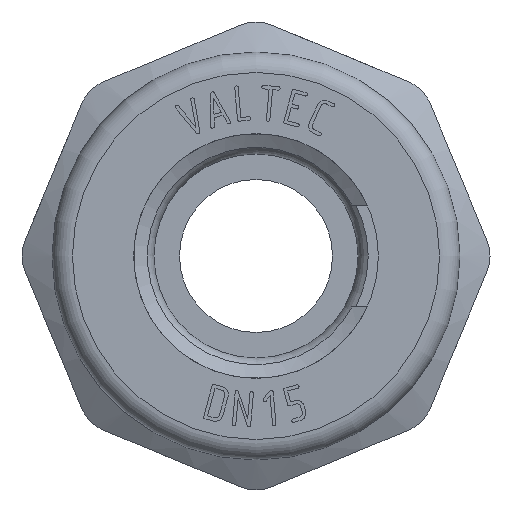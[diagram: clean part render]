
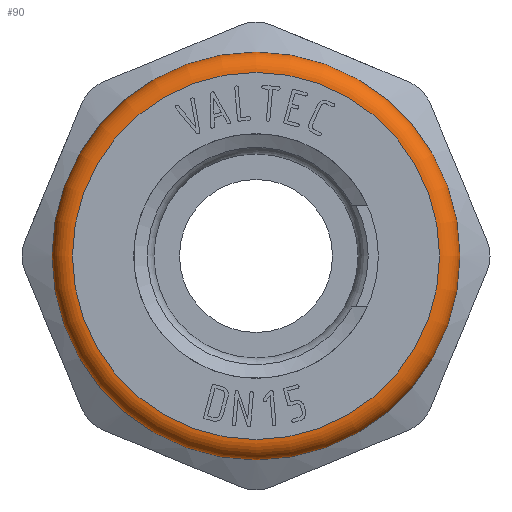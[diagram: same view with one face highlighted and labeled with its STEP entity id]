
A CAD part, front view. The second image highlights one B-rep face of the part: STEP entity #90.
In plain terms, the highlighted toroidal (fillet/blend) face has major radius 18 mm and minor radius 2 mm.
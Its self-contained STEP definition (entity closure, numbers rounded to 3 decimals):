
#90=ADVANCED_FACE('',(#735,#737),#739,.T.);
#735=FACE_OUTER_BOUND('',#736,.T.);
#736=EDGE_LOOP('',(#2789));
#737=FACE_OUTER_BOUND('',#738,.T.);
#738=EDGE_LOOP('',(#2790));
#739=TOROIDAL_SURFACE('',#740,18.,2.);
#740=AXIS2_PLACEMENT_3D('',#741,#742,#743);
#741=CARTESIAN_POINT('',(0.,-8.766,0.));
#742=DIRECTION('',(0.,-1.,0.));
#743=DIRECTION('',(1.,0.,0.));
#2789=ORIENTED_EDGE('',*,*,#4662,.T.);
#2790=ORIENTED_EDGE('',*,*,#4477,.F.);
#4477=EDGE_CURVE('',#5345,#5345,#5346,.T.);
#4662=EDGE_CURVE('',#5715,#5715,#5716,.T.);
#5345=VERTEX_POINT('',#7160);
#5346=CIRCLE('',#7161,18.);
#5715=VERTEX_POINT('',#7902);
#5716=CIRCLE('',#7903,20.);
#7160=CARTESIAN_POINT('',(18.,-10.766,0.));
#7161=AXIS2_PLACEMENT_3D('',#7162,#7163,#7164);
#7162=CARTESIAN_POINT('',(0.,-10.766,0.));
#7163=DIRECTION('',(0.,-1.,0.));
#7164=DIRECTION('',(1.,0.,0.));
#7902=CARTESIAN_POINT('',(20.,-8.766,0.));
#7903=AXIS2_PLACEMENT_3D('',#7904,#7905,#7906);
#7904=CARTESIAN_POINT('',(0.,-8.766,0.));
#7905=DIRECTION('',(0.,-1.,0.));
#7906=DIRECTION('',(1.,0.,0.));
